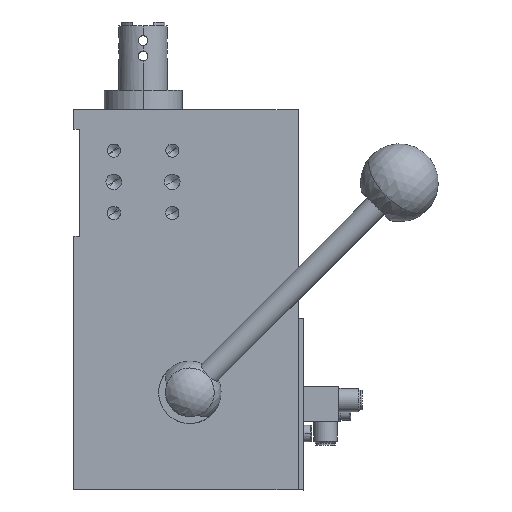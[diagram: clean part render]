
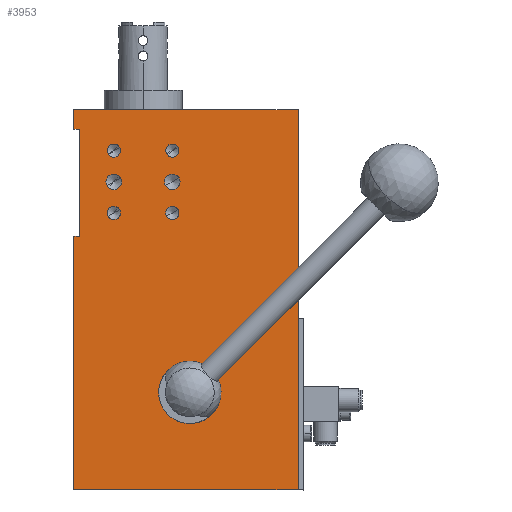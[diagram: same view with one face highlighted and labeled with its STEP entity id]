
A CAD part, top view. The second image highlights one B-rep face of the part: STEP entity #3953.
In plain terms, the highlighted planar face has unit normal (0, 0, 1).
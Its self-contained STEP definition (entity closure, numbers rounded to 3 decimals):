
#1020=CARTESIAN_POINT('Line Origine',(79.5,-151.,22.5)) ;
#1024=CARTESIAN_POINT('Vertex',(79.5,-107.,22.5)) ;
#1026=CARTESIAN_POINT('Vertex',(79.5,-195.,22.5)) ;
#3536=CARTESIAN_POINT('Axis2P3D Location',(24.,-145.,22.5)) ;
#3540=CARTESIAN_POINT('Vertex',(17.,-145.,22.5)) ;
#3542=CARTESIAN_POINT('Vertex',(31.,-145.,22.5)) ;
#3571=CARTESIAN_POINT('Axis2P3D Location',(24.,-145.,22.5)) ;
#3771=CARTESIAN_POINT('Axis2P3D Location',(-35.5,-195.,22.5)) ;
#3776=CARTESIAN_POINT('Line Origine',(-34.,-10.,22.5)) ;
#3780=CARTESIAN_POINT('Vertex',(-35.5,-10.,22.5)) ;
#3782=CARTESIAN_POINT('Vertex',(-32.5,-10.,22.5)) ;
#3785=CARTESIAN_POINT('Line Origine',(-32.5,-37.5,22.5)) ;
#3789=CARTESIAN_POINT('Vertex',(-32.5,-65.,22.5)) ;
#3792=CARTESIAN_POINT('Line Origine',(-34.,-65.,22.5)) ;
#3796=CARTESIAN_POINT('Vertex',(-35.5,-65.,22.5)) ;
#3799=CARTESIAN_POINT('Line Origine',(-35.5,-130.,22.5)) ;
#3803=CARTESIAN_POINT('Vertex',(-35.5,-195.,22.5)) ;
#3806=CARTESIAN_POINT('Line Origine',(22.,-195.,22.5)) ;
#3811=CARTESIAN_POINT('Line Origine',(79.5,-53.5,22.5)) ;
#3815=CARTESIAN_POINT('Vertex',(79.5,0.,22.5)) ;
#3818=CARTESIAN_POINT('Line Origine',(22.,0.,22.5)) ;
#3822=CARTESIAN_POINT('Vertex',(-35.5,0.,22.5)) ;
#3825=CARTESIAN_POINT('Line Origine',(-35.5,-5.,22.5)) ;
#3845=CARTESIAN_POINT('Axis2P3D Location',(-15.,-21.,22.5)) ;
#3849=CARTESIAN_POINT('Vertex',(-15.,-17.6,22.5)) ;
#3851=CARTESIAN_POINT('Vertex',(-15.,-24.4,22.5)) ;
#3854=CARTESIAN_POINT('Axis2P3D Location',(-15.,-21.,22.5)) ;
#3863=CARTESIAN_POINT('Axis2P3D Location',(-15.,-53.,22.5)) ;
#3867=CARTESIAN_POINT('Vertex',(-15.,-49.6,22.5)) ;
#3869=CARTESIAN_POINT('Vertex',(-15.,-56.4,22.5)) ;
#3872=CARTESIAN_POINT('Axis2P3D Location',(-15.,-53.,22.5)) ;
#3881=CARTESIAN_POINT('Axis2P3D Location',(-15.,-37.,22.5)) ;
#3885=CARTESIAN_POINT('Vertex',(-15.,-33.,22.5)) ;
#3887=CARTESIAN_POINT('Vertex',(-15.,-41.,22.5)) ;
#3890=CARTESIAN_POINT('Axis2P3D Location',(-15.,-37.,22.5)) ;
#3899=CARTESIAN_POINT('Axis2P3D Location',(15.,-21.,22.5)) ;
#3903=CARTESIAN_POINT('Vertex',(15.,-17.6,22.5)) ;
#3905=CARTESIAN_POINT('Vertex',(15.,-24.4,22.5)) ;
#3908=CARTESIAN_POINT('Axis2P3D Location',(15.,-21.,22.5)) ;
#3917=CARTESIAN_POINT('Axis2P3D Location',(15.,-53.,22.5)) ;
#3921=CARTESIAN_POINT('Vertex',(15.,-49.6,22.5)) ;
#3923=CARTESIAN_POINT('Vertex',(15.,-56.4,22.5)) ;
#3926=CARTESIAN_POINT('Axis2P3D Location',(15.,-53.,22.5)) ;
#3935=CARTESIAN_POINT('Axis2P3D Location',(15.,-37.,22.5)) ;
#3939=CARTESIAN_POINT('Vertex',(15.,-33.,22.5)) ;
#3941=CARTESIAN_POINT('Vertex',(15.,-41.,22.5)) ;
#3944=CARTESIAN_POINT('Axis2P3D Location',(15.,-37.,22.5)) ;
#1021=DIRECTION('Vector Direction',(0.,1.,0.)) ;
#3537=DIRECTION('Axis2P3D Direction',(0.,0.,-1.)) ;
#3572=DIRECTION('Axis2P3D Direction',(0.,0.,-1.)) ;
#3772=DIRECTION('Axis2P3D Direction',(0.,0.,-1.)) ;
#3773=DIRECTION('Axis2P3D XDirection',(0.,1.,0.)) ;
#3777=DIRECTION('Vector Direction',(1.,0.,0.)) ;
#3786=DIRECTION('Vector Direction',(0.,1.,0.)) ;
#3793=DIRECTION('Vector Direction',(1.,0.,0.)) ;
#3800=DIRECTION('Vector Direction',(0.,1.,0.)) ;
#3807=DIRECTION('Vector Direction',(1.,0.,0.)) ;
#3812=DIRECTION('Vector Direction',(0.,1.,0.)) ;
#3819=DIRECTION('Vector Direction',(1.,0.,0.)) ;
#3826=DIRECTION('Vector Direction',(0.,1.,0.)) ;
#3846=DIRECTION('Axis2P3D Direction',(0.,0.,-1.)) ;
#3855=DIRECTION('Axis2P3D Direction',(0.,0.,-1.)) ;
#3864=DIRECTION('Axis2P3D Direction',(0.,0.,-1.)) ;
#3873=DIRECTION('Axis2P3D Direction',(0.,0.,-1.)) ;
#3882=DIRECTION('Axis2P3D Direction',(0.,0.,-1.)) ;
#3891=DIRECTION('Axis2P3D Direction',(0.,0.,-1.)) ;
#3900=DIRECTION('Axis2P3D Direction',(0.,0.,-1.)) ;
#3909=DIRECTION('Axis2P3D Direction',(0.,0.,-1.)) ;
#3918=DIRECTION('Axis2P3D Direction',(0.,0.,-1.)) ;
#3927=DIRECTION('Axis2P3D Direction',(0.,0.,-1.)) ;
#3936=DIRECTION('Axis2P3D Direction',(0.,0.,-1.)) ;
#3945=DIRECTION('Axis2P3D Direction',(0.,0.,-1.)) ;
#3538=AXIS2_PLACEMENT_3D('Circle Axis2P3D',#3536,#3537,$) ;
#3573=AXIS2_PLACEMENT_3D('Circle Axis2P3D',#3571,#3572,$) ;
#3774=AXIS2_PLACEMENT_3D('Plane Axis2P3D',#3771,#3772,#3773) ;
#3847=AXIS2_PLACEMENT_3D('Circle Axis2P3D',#3845,#3846,$) ;
#3856=AXIS2_PLACEMENT_3D('Circle Axis2P3D',#3854,#3855,$) ;
#3865=AXIS2_PLACEMENT_3D('Circle Axis2P3D',#3863,#3864,$) ;
#3874=AXIS2_PLACEMENT_3D('Circle Axis2P3D',#3872,#3873,$) ;
#3883=AXIS2_PLACEMENT_3D('Circle Axis2P3D',#3881,#3882,$) ;
#3892=AXIS2_PLACEMENT_3D('Circle Axis2P3D',#3890,#3891,$) ;
#3901=AXIS2_PLACEMENT_3D('Circle Axis2P3D',#3899,#3900,$) ;
#3910=AXIS2_PLACEMENT_3D('Circle Axis2P3D',#3908,#3909,$) ;
#3919=AXIS2_PLACEMENT_3D('Circle Axis2P3D',#3917,#3918,$) ;
#3928=AXIS2_PLACEMENT_3D('Circle Axis2P3D',#3926,#3927,$) ;
#3937=AXIS2_PLACEMENT_3D('Circle Axis2P3D',#3935,#3936,$) ;
#3946=AXIS2_PLACEMENT_3D('Circle Axis2P3D',#3944,#3945,$) ;
#3831=ORIENTED_EDGE('',*,*,#3784,.T.) ;
#3832=ORIENTED_EDGE('',*,*,#3791,.T.) ;
#3833=ORIENTED_EDGE('',*,*,#3798,.F.) ;
#3834=ORIENTED_EDGE('',*,*,#3805,.T.) ;
#3835=ORIENTED_EDGE('',*,*,#3810,.T.) ;
#3836=ORIENTED_EDGE('',*,*,#1028,.F.) ;
#3837=ORIENTED_EDGE('',*,*,#3817,.F.) ;
#3838=ORIENTED_EDGE('',*,*,#3824,.F.) ;
#3839=ORIENTED_EDGE('',*,*,#3829,.T.) ;
#3842=ORIENTED_EDGE('',*,*,#3544,.T.) ;
#3843=ORIENTED_EDGE('',*,*,#3575,.T.) ;
#3860=ORIENTED_EDGE('',*,*,#3853,.F.) ;
#3861=ORIENTED_EDGE('',*,*,#3858,.F.) ;
#3878=ORIENTED_EDGE('',*,*,#3871,.F.) ;
#3879=ORIENTED_EDGE('',*,*,#3876,.F.) ;
#3896=ORIENTED_EDGE('',*,*,#3889,.F.) ;
#3897=ORIENTED_EDGE('',*,*,#3894,.F.) ;
#3914=ORIENTED_EDGE('',*,*,#3907,.F.) ;
#3915=ORIENTED_EDGE('',*,*,#3912,.F.) ;
#3932=ORIENTED_EDGE('',*,*,#3925,.F.) ;
#3933=ORIENTED_EDGE('',*,*,#3930,.F.) ;
#3950=ORIENTED_EDGE('',*,*,#3943,.F.) ;
#3951=ORIENTED_EDGE('',*,*,#3948,.F.) ;
#3844=FACE_BOUND('',#3841,.T.) ;
#3862=FACE_BOUND('',#3859,.T.) ;
#3880=FACE_BOUND('',#3877,.T.) ;
#3898=FACE_BOUND('',#3895,.T.) ;
#3916=FACE_BOUND('',#3913,.T.) ;
#3934=FACE_BOUND('',#3931,.T.) ;
#3952=FACE_BOUND('',#3949,.T.) ;
#1022=VECTOR('Line Direction',#1021,1.) ;
#3778=VECTOR('Line Direction',#3777,1.) ;
#3787=VECTOR('Line Direction',#3786,1.) ;
#3794=VECTOR('Line Direction',#3793,1.) ;
#3801=VECTOR('Line Direction',#3800,1.) ;
#3808=VECTOR('Line Direction',#3807,1.) ;
#3813=VECTOR('Line Direction',#3812,1.) ;
#3820=VECTOR('Line Direction',#3819,1.) ;
#3827=VECTOR('Line Direction',#3826,1.) ;
#3953=ADVANCED_FACE('PartBody',(#3840,#3844,#3862,#3880,#3898,#3916,#3934,#3952),#3775,.F.) ;
#3539=CIRCLE('generated circle',#3538,7.) ;
#3574=CIRCLE('generated circle',#3573,7.) ;
#3848=CIRCLE('generated circle',#3847,3.4) ;
#3857=CIRCLE('generated circle',#3856,3.4) ;
#3866=CIRCLE('generated circle',#3865,3.4) ;
#3875=CIRCLE('generated circle',#3874,3.4) ;
#3884=CIRCLE('generated circle',#3883,4.) ;
#3893=CIRCLE('generated circle',#3892,4.) ;
#3902=CIRCLE('generated circle',#3901,3.4) ;
#3911=CIRCLE('generated circle',#3910,3.4) ;
#3920=CIRCLE('generated circle',#3919,3.4) ;
#3929=CIRCLE('generated circle',#3928,3.4) ;
#3938=CIRCLE('generated circle',#3937,4.) ;
#3947=CIRCLE('generated circle',#3946,4.) ;
#1028=EDGE_CURVE('',#1025,#1027,#1023,.F.) ;
#3544=EDGE_CURVE('',#3541,#3543,#3539,.T.) ;
#3575=EDGE_CURVE('',#3543,#3541,#3574,.T.) ;
#3784=EDGE_CURVE('',#3781,#3783,#3779,.T.) ;
#3791=EDGE_CURVE('',#3783,#3790,#3788,.F.) ;
#3798=EDGE_CURVE('',#3797,#3790,#3795,.T.) ;
#3805=EDGE_CURVE('',#3797,#3804,#3802,.F.) ;
#3810=EDGE_CURVE('',#3804,#1027,#3809,.T.) ;
#3817=EDGE_CURVE('',#3816,#1025,#3814,.F.) ;
#3824=EDGE_CURVE('',#3823,#3816,#3821,.T.) ;
#3829=EDGE_CURVE('',#3823,#3781,#3828,.F.) ;
#3853=EDGE_CURVE('',#3850,#3852,#3848,.F.) ;
#3858=EDGE_CURVE('',#3852,#3850,#3857,.F.) ;
#3871=EDGE_CURVE('',#3868,#3870,#3866,.F.) ;
#3876=EDGE_CURVE('',#3870,#3868,#3875,.F.) ;
#3889=EDGE_CURVE('',#3886,#3888,#3884,.F.) ;
#3894=EDGE_CURVE('',#3888,#3886,#3893,.F.) ;
#3907=EDGE_CURVE('',#3904,#3906,#3902,.F.) ;
#3912=EDGE_CURVE('',#3906,#3904,#3911,.F.) ;
#3925=EDGE_CURVE('',#3922,#3924,#3920,.F.) ;
#3930=EDGE_CURVE('',#3924,#3922,#3929,.F.) ;
#3943=EDGE_CURVE('',#3940,#3942,#3938,.F.) ;
#3948=EDGE_CURVE('',#3942,#3940,#3947,.F.) ;
#3830=EDGE_LOOP('',(#3831,#3832,#3833,#3834,#3835,#3836,#3837,#3838,#3839)) ;
#3841=EDGE_LOOP('',(#3842,#3843)) ;
#3859=EDGE_LOOP('',(#3860,#3861)) ;
#3877=EDGE_LOOP('',(#3878,#3879)) ;
#3895=EDGE_LOOP('',(#3896,#3897)) ;
#3913=EDGE_LOOP('',(#3914,#3915)) ;
#3931=EDGE_LOOP('',(#3932,#3933)) ;
#3949=EDGE_LOOP('',(#3950,#3951)) ;
#3840=FACE_OUTER_BOUND('',#3830,.T.) ;
#1023=LINE('Line',#1020,#1022) ;
#3779=LINE('Line',#3776,#3778) ;
#3788=LINE('Line',#3785,#3787) ;
#3795=LINE('Line',#3792,#3794) ;
#3802=LINE('Line',#3799,#3801) ;
#3809=LINE('Line',#3806,#3808) ;
#3814=LINE('Line',#3811,#3813) ;
#3821=LINE('Line',#3818,#3820) ;
#3828=LINE('Line',#3825,#3827) ;
#3775=PLANE('Plane',#3774) ;
#1025=VERTEX_POINT('',#1024) ;
#1027=VERTEX_POINT('',#1026) ;
#3541=VERTEX_POINT('',#3540) ;
#3543=VERTEX_POINT('',#3542) ;
#3781=VERTEX_POINT('',#3780) ;
#3783=VERTEX_POINT('',#3782) ;
#3790=VERTEX_POINT('',#3789) ;
#3797=VERTEX_POINT('',#3796) ;
#3804=VERTEX_POINT('',#3803) ;
#3816=VERTEX_POINT('',#3815) ;
#3823=VERTEX_POINT('',#3822) ;
#3850=VERTEX_POINT('',#3849) ;
#3852=VERTEX_POINT('',#3851) ;
#3868=VERTEX_POINT('',#3867) ;
#3870=VERTEX_POINT('',#3869) ;
#3886=VERTEX_POINT('',#3885) ;
#3888=VERTEX_POINT('',#3887) ;
#3904=VERTEX_POINT('',#3903) ;
#3906=VERTEX_POINT('',#3905) ;
#3922=VERTEX_POINT('',#3921) ;
#3924=VERTEX_POINT('',#3923) ;
#3940=VERTEX_POINT('',#3939) ;
#3942=VERTEX_POINT('',#3941) ;
